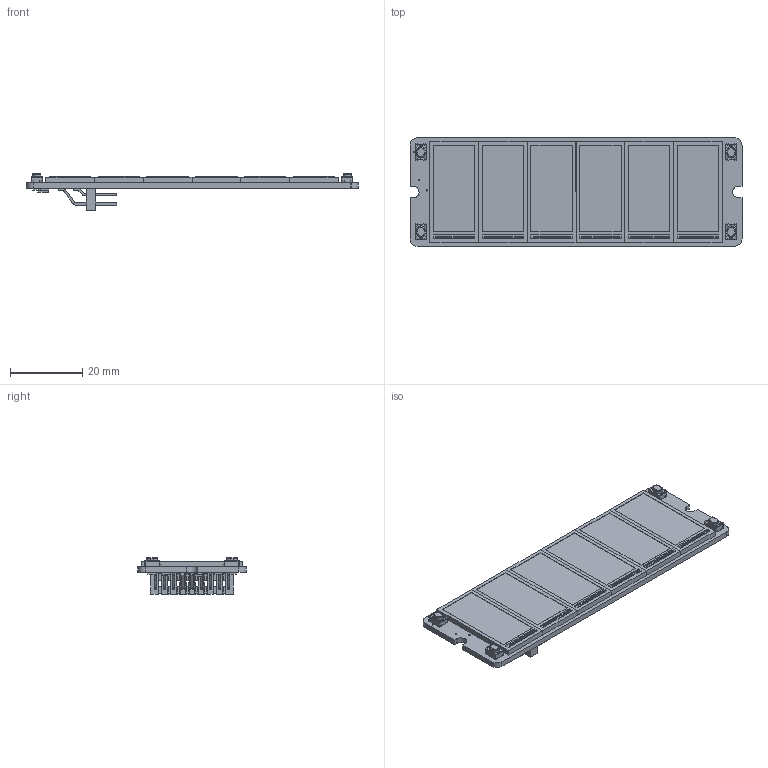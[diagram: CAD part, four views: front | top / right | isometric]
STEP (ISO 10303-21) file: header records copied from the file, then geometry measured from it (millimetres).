
FILE_DESCRIPTION(/* description */ (''),/* implementation_level */ '2;1');
FILE_NAME(/* name */ 'C:/Users/Josue/Desktop/Display Array Board v6.step',/* time_stamp */ '2021-03-22T14:58:16-06:00',/* author */ (''),/* organization */ (''),/* preprocessor_version */ 'ST-DEVELOPER v18.1',/* originating_system */ 'Autodesk Translation Framework v9.10.0.1330',/* authorisation */ '');
FILE_SCHEMA (('AUTOMOTIVE_DESIGN { 1 0 10303 214 3 1 1 }'));
Products named in the file (52): Display Array Board; DisplayArray; Board; Packages; SE_SMALL_SILK; SAMTEC-TSM-109-02-X-DH-A; _TSM-109-01-DH_body; _T-1S6-09(-01-9-DH); C0603; C0603 (1); R0805; core; Pad; R0805 (1); core (1); Pad (1); R0805 (2); core (2); Pad (2); R0805 (3); core (3); Pad (3); R0805 (4); core (4); Pad (4); SOT23; 434123025826; Frame; Cover; Stem; Terminal; 434123025826 (1); Frame (1); Cover (1); Stem (1); Terminal (1); 434123025826 (2); Frame (2); Cover (2); Stem (2)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
Assembly tree (68 placements, depth 5):
  Display Array Board
    DisplayArray
      Board
      Packages
        SE_SMALL_SILK
        SAMTEC-TSM-109-02-X-DH-A
          _TSM-109-01-DH_body
          _T-1S6-09(-01-9-DH)
        C0603
        C0603 (1)
        R0805
          core
          Pad  x2
        R0805 (1)
          core (1)
          Pad (1)  x2
        R0805 (2)
          core (2)
          Pad (2)  x2
        R0805 (3)
          core (3)
          Pad (3)  x2
        R0805 (4)
          core (4)
          Pad (4)  x2
        SOT23
        434123025826
          Frame
          Cover
          Stem
          Terminal  x4
        434123025826 (1)
          Frame (1)
          Cover (1)
          Stem (1)
          Terminal (1)  x4
        434123025826 (2)
          Frame (2)
          Cover (2)
          Stem (2)
          Terminal (2)  x4
        434123025826 (3)
          Frame (3)
          Cover (3)
          Stem (3)
          Terminal (3)  x4
        IPSLCD096_SOLDER
        IPSLCD096_SOLDER (1)
        IPSLCD096_SOLDER (2)
        IPSLCD096_SOLDER (3)
        IPSLCD096_SOLDER (4)
        IPSLCD096_SOLDER (5)
Bounding box: 92 x 30 x 10.19 mm (x, y, z)
Volume: 8028.1 mm3; surface area: 16809.6 mm2
Topology: 67 solids, 67 shells, 2226 faces, 5910 edges, 3792 vertices
Faces by surface type: plane 1671, cylinder 475, sphere 72, torus 8
Full cylindrical faces by diameter (mm): 0.35 x87, 0.75 x4, 1.78 x2
Entity records: 66176 total; most frequent: CARTESIAN_POINT 11487, ORIENTED_EDGE 10740, DIRECTION 10474, EDGE_CURVE 5370, LINE 4476, VECTOR 4476, VERTEX_POINT 3500, AXIS2_PLACEMENT_3D 2999
